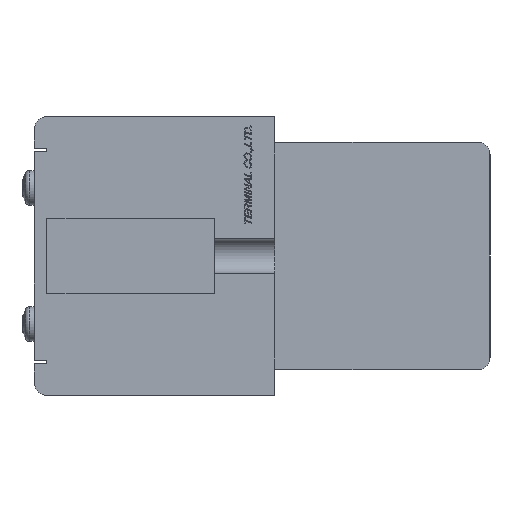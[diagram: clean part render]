
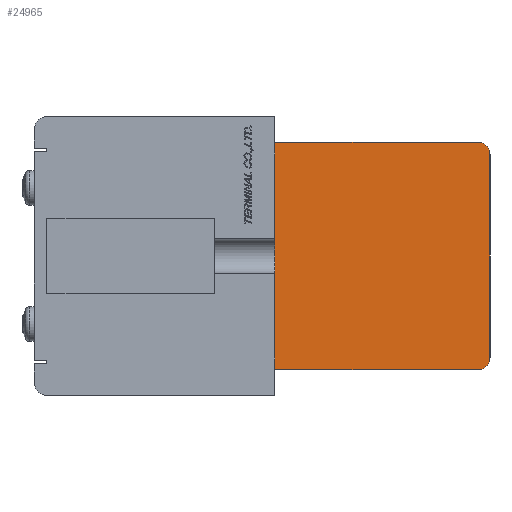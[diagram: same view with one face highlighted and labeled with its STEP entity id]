
A CAD part, left-side view. The second image highlights one B-rep face of the part: STEP entity #24965.
In plain terms, the highlighted planar face has unit normal (-1, 0, 0).
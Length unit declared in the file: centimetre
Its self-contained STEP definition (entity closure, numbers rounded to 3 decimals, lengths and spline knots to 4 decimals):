
#940=CIRCLE('',#42644,0.2);
#941=CIRCLE('',#42647,0.2);
#3001=VERTEX_POINT('',#37547);
#3002=VERTEX_POINT('',#37548);
#3003=VERTEX_POINT('',#37553);
#3004=VERTEX_POINT('',#37557);
#3005=VERTEX_POINT('',#37561);
#3006=VERTEX_POINT('',#37562);
#5470=VECTOR('',#29728,1.);
#5473=VECTOR('',#29736,1.);
#5474=VECTOR('',#29737,1.);
#5475=VECTOR('',#29738,1.);
#7908=LINE('',#37552,#5470);
#7911=LINE('',#37560,#5473);
#7912=LINE('',#37563,#5474);
#7913=LINE('',#37564,#5475);
#11099=EDGE_CURVE('',#3001,#3002,#940,.T.);
#11102=EDGE_CURVE('',#3002,#3003,#7908,.T.);
#11104=EDGE_CURVE('',#3003,#3004,#941,.T.);
#11106=EDGE_CURVE('',#3005,#3006,#7911,.T.);
#11107=EDGE_CURVE('',#3004,#3005,#7912,.T.);
#11108=EDGE_CURVE('',#3006,#3001,#7913,.T.);
#16861=ORIENTED_EDGE('',*,*,#11106,.F.);
#16862=ORIENTED_EDGE('',*,*,#11107,.F.);
#16863=ORIENTED_EDGE('',*,*,#11104,.F.);
#16864=ORIENTED_EDGE('',*,*,#11102,.F.);
#16865=ORIENTED_EDGE('',*,*,#11099,.F.);
#16866=ORIENTED_EDGE('',*,*,#11108,.F.);
#21669=EDGE_LOOP('',(#16861,#16862,#16863,#16864,#16865,#16866));
#23386=FACE_BOUND('',#21669,.T.);
#24965=ADVANCED_FACE('',(#23386),#26151,.F.);
#26151=PLANE('',#42648);
#29723=DIRECTION('',(1.,0.,0.));
#29724=DIRECTION('',(0.,0.,-0.2));
#29728=DIRECTION('',(0.,0.,-1.));
#29732=DIRECTION('',(1.,0.,0.));
#29733=DIRECTION('',(0.,0.,-0.2));
#29735=DIRECTION('',(1.,0.,0.));
#29736=DIRECTION('',(0.,0.,1.));
#29737=DIRECTION('',(0.,1.,0.));
#29738=DIRECTION('',(0.,-1.,0.));
#37546=CARTESIAN_POINT('',(-5.1,-3.2,1.6));
#37547=CARTESIAN_POINT('',(-5.1,-3.2,1.8));
#37548=CARTESIAN_POINT('',(-5.1,-3.4,1.6));
#37552=CARTESIAN_POINT('',(-5.1,-3.4,-1.6));
#37553=CARTESIAN_POINT('',(-5.1,-3.4,-1.6));
#37556=CARTESIAN_POINT('',(-5.1,-3.2,-1.6));
#37557=CARTESIAN_POINT('',(-5.1,-3.2,-1.8));
#37559=CARTESIAN_POINT('',(-5.1,-1.6784,0.));
#37560=CARTESIAN_POINT('',(-5.1,0.,1.8));
#37561=CARTESIAN_POINT('',(-5.1,0.,-1.8));
#37562=CARTESIAN_POINT('',(-5.1,0.,1.8));
#37563=CARTESIAN_POINT('',(-5.1,0.,-1.8));
#37564=CARTESIAN_POINT('',(-5.1,-3.2,1.8));
#42644=AXIS2_PLACEMENT_3D('',#37546,#29723,#29724);
#42647=AXIS2_PLACEMENT_3D('',#37556,#29732,#29733);
#42648=AXIS2_PLACEMENT_3D('',#37559,#29735,$);
